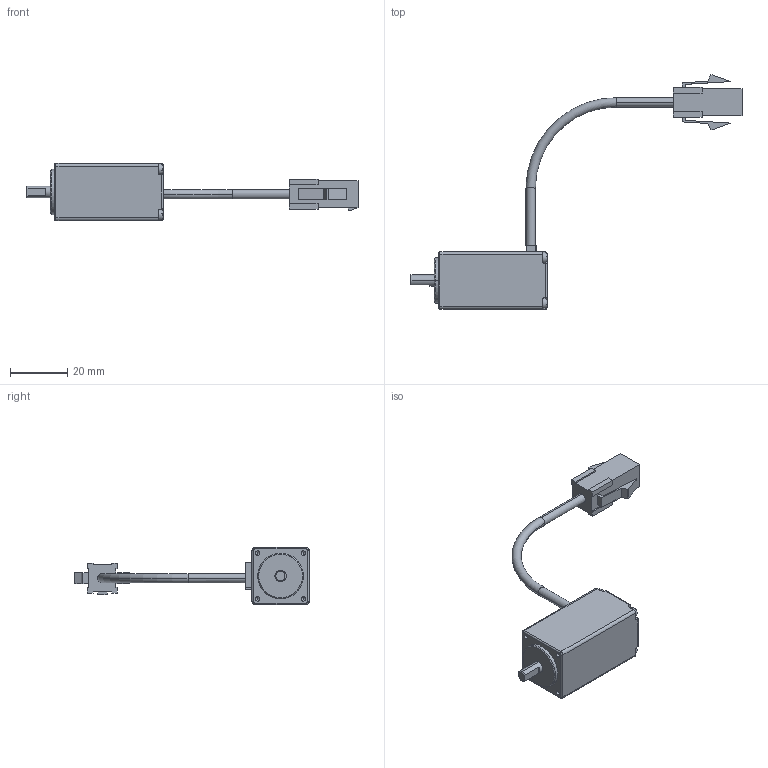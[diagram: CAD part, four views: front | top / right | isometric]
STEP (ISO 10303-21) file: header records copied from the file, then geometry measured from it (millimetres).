
FILE_DESCRIPTION (( 'STEP AP203' ), '1' );
FILE_NAME ('P21-MO-020-02-R01.STEP', '2015-06-30T01:29:45', ( '' ), ( '' ), 'SwSTEP 2.0', 'SolidWorks 2013', '' );
FILE_SCHEMA (( 'CONFIG_CONTROL_DESIGN' ));
Length unit declared in the file: millimetre
Products named in the file (3): M21-MO-020-02-R01; Power_Cable_ル遽; P21-MO-020-02-R01
Assembly tree (2 placements, depth 2):
  P21-MO-020-02-R01
    M21-MO-020-02-R01
    Power_Cable_ル遽
Bounding box: 116.28 x 82.01 x 20 mm (x, y, z)
Volume: 18101.9 mm3; surface area: 7728.2 mm2
Topology: 2 solids, 2 shells, 273 faces, 725 edges, 469 vertices
Faces by surface type: plane 178, cylinder 68, cone 13, torus 6, sphere 4, bspline 4
Entity records: 8874 total; most frequent: CARTESIAN_POINT 1724, DIRECTION 1454, ORIENTED_EDGE 1418, EDGE_CURVE 709, AXIS2_PLACEMENT_3D 492, LINE 470, VECTOR 470, VERTEX_POINT 465
